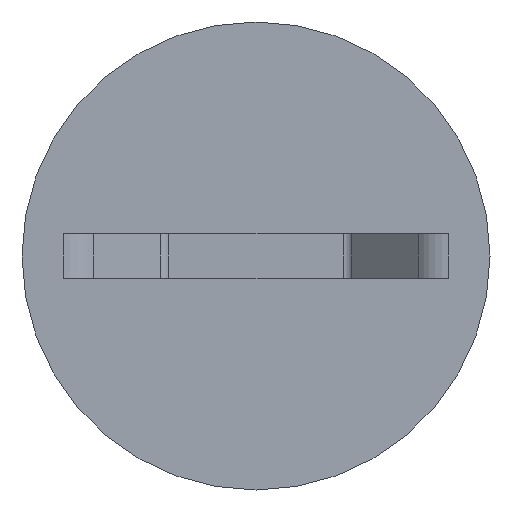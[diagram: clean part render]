
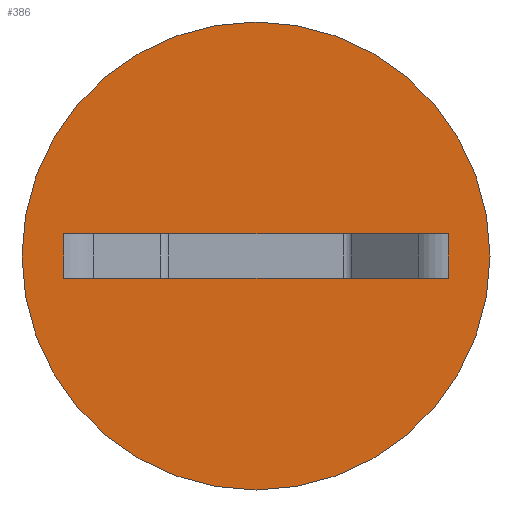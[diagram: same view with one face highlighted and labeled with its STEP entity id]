
A CAD part, front view. The second image highlights one B-rep face of the part: STEP entity #386.
In plain terms, the highlighted planar face has unit normal (0, -1, 0).
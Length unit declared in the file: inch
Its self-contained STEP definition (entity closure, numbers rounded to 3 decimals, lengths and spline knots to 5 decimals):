
#4 = EDGE_CURVE ( 'NONE', #130, #800, #776, .T. ) ;
#15 = VECTOR ( 'NONE', #361, 39.37008 ) ;
#35 = CARTESIAN_POINT ( 'NONE',  ( -0.51284, -0.08, 0. ) ) ;
#51 = VERTEX_POINT ( 'NONE', #543 ) ;
#53 = LINE ( 'NONE', #252, #576 ) ;
#77 = EDGE_CURVE ( 'NONE', #51, #489, #613, .T. ) ;
#115 = ORIENTED_EDGE ( 'NONE', *, *, #602, .T. ) ;
#129 = ORIENTED_EDGE ( 'NONE', *, *, #4, .F. ) ;
#130 = VERTEX_POINT ( 'NONE', #401 ) ;
#134 = CARTESIAN_POINT ( 'NONE',  ( -0.625, -0.08, -0.12 ) ) ;
#160 = EDGE_CURVE ( 'NONE', #650, #191, #595, .T. ) ;
#177 = CARTESIAN_POINT ( 'NONE',  ( 0.51284, -0.08, 0. ) ) ;
#188 = LINE ( 'NONE', #563, #15 ) ;
#191 = VERTEX_POINT ( 'NONE', #623 ) ;
#205 = EDGE_CURVE ( 'NONE', #800, #650, #188, .T. ) ;
#215 = DIRECTION ( 'NONE',  ( 1., 0., 0. ) ) ;
#236 = ORIENTED_EDGE ( 'NONE', *, *, #238, .T. ) ;
#238 = EDGE_CURVE ( 'NONE', #130, #191, #53, .T. ) ;
#247 = CIRCLE ( 'NONE', #520, 0.625 ) ;
#252 = CARTESIAN_POINT ( 'NONE',  ( -0.51284, -0.08, -0.12 ) ) ;
#258 = DIRECTION ( 'NONE',  ( 0., 0., -1. ) ) ;
#280 = CARTESIAN_POINT ( 'NONE',  ( 0., -0.08, -0.06 ) ) ;
#285 = ORIENTED_EDGE ( 'NONE', *, *, #77, .T. ) ;
#357 = CARTESIAN_POINT ( 'NONE',  ( 0., -0.08, 0.565 ) ) ;
#361 = DIRECTION ( 'NONE',  ( 0., 0., 1. ) ) ;
#366 = EDGE_LOOP ( 'NONE', ( #285, #115 ) ) ;
#380 = ORIENTED_EDGE ( 'NONE', *, *, #205, .F. ) ;
#386 = ADVANCED_FACE ( 'NONE', ( #455, #754 ), #445, .T. ) ;
#401 = CARTESIAN_POINT ( 'NONE',  ( -0.51284, -0.08, -0.12 ) ) ;
#403 = VECTOR ( 'NONE', #534, 39.37008 ) ;
#414 = DIRECTION ( 'NONE',  ( 0., -1., 0. ) ) ;
#429 = DIRECTION ( 'NONE',  ( 0., 0., 1. ) ) ;
#445 = PLANE ( 'NONE',  #478 ) ;
#448 = DIRECTION ( 'NONE',  ( 0., -1., 0. ) ) ;
#455 = FACE_BOUND ( 'NONE', #660, .T. ) ;
#478 = AXIS2_PLACEMENT_3D ( 'NONE', #134, #448, #258 ) ;
#481 = DIRECTION ( 'NONE',  ( 0., 0., -1. ) ) ;
#487 = DIRECTION ( 'NONE',  ( 0., 0., -1. ) ) ;
#489 = VERTEX_POINT ( 'NONE', #357 ) ;
#520 = AXIS2_PLACEMENT_3D ( 'NONE', #806, #798, #487 ) ;
#529 = AXIS2_PLACEMENT_3D ( 'NONE', #280, #414, #481 ) ;
#534 = DIRECTION ( 'NONE',  ( -1., 0., 0. ) ) ;
#543 = CARTESIAN_POINT ( 'NONE',  ( 0., -0.08, -0.685 ) ) ;
#563 = CARTESIAN_POINT ( 'NONE',  ( 0.51284, -0.08, -0.12 ) ) ;
#576 = VECTOR ( 'NONE', #429, 39.37008 ) ;
#595 = LINE ( 'NONE', #35, #403 ) ;
#602 = EDGE_CURVE ( 'NONE', #489, #51, #247, .T. ) ;
#613 = CIRCLE ( 'NONE', #529, 0.625 ) ;
#623 = CARTESIAN_POINT ( 'NONE',  ( -0.51284, -0.08, 0. ) ) ;
#650 = VERTEX_POINT ( 'NONE', #177 ) ;
#660 = EDGE_LOOP ( 'NONE', ( #767, #380, #129, #236 ) ) ;
#686 = CARTESIAN_POINT ( 'NONE',  ( 0.51284, -0.08, -0.12 ) ) ;
#697 = CARTESIAN_POINT ( 'NONE',  ( -0.51284, -0.08, -0.12 ) ) ;
#754 = FACE_OUTER_BOUND ( 'NONE', #366, .T. ) ;
#767 = ORIENTED_EDGE ( 'NONE', *, *, #160, .F. ) ;
#774 = VECTOR ( 'NONE', #215, 39.37008 ) ;
#776 = LINE ( 'NONE', #697, #774 ) ;
#798 = DIRECTION ( 'NONE',  ( 0., -1., 0. ) ) ;
#800 = VERTEX_POINT ( 'NONE', #686 ) ;
#806 = CARTESIAN_POINT ( 'NONE',  ( 0., -0.08, -0.06 ) ) ;
